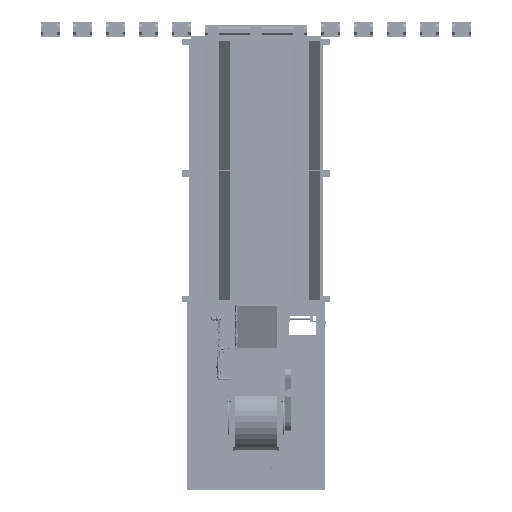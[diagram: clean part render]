
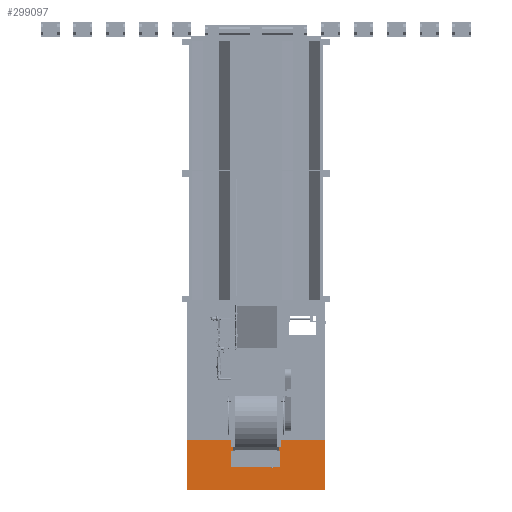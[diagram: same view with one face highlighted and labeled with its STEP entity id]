
A CAD part, front view. The second image highlights one B-rep face of the part: STEP entity #299097.
In plain terms, the highlighted planar face has unit normal (0, -1, 0) as drawn and (1, 0, 0) by its records, which use the part's own axes.
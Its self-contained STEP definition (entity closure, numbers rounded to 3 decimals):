
#59489=FACE_OUTER_BOUND('',#77470,.T.);
#77470=EDGE_LOOP('',(#270696,#270697,#270698,#270699));
#98950=LINE('',#727675,#121580);
#98986=LINE('',#727743,#121616);
#98998=LINE('',#727766,#121628);
#98999=LINE('',#727767,#121629);
#121580=VECTOR('',#397070,0.394);
#121616=VECTOR('',#397124,0.394);
#121628=VECTOR('',#397148,0.394);
#121629=VECTOR('',#397149,0.394);
#148806=VERTEX_POINT('',#727672);
#148807=VERTEX_POINT('',#727674);
#148830=VERTEX_POINT('',#727741);
#148835=VERTEX_POINT('',#727765);
#189822=EDGE_CURVE('',#148806,#148807,#98950,.T.);
#189858=EDGE_CURVE('',#148806,#148830,#98986,.T.);
#189870=EDGE_CURVE('',#148830,#148835,#98998,.T.);
#189871=EDGE_CURVE('',#148835,#148807,#98999,.T.);
#270696=ORIENTED_EDGE('',*,*,#189858,.T.);
#270697=ORIENTED_EDGE('',*,*,#189870,.T.);
#270698=ORIENTED_EDGE('',*,*,#189871,.T.);
#270699=ORIENTED_EDGE('',*,*,#189822,.F.);
#283141=PLANE('',#326147);
#299097=ADVANCED_FACE('',(#59489),#283141,.T.);
#326147=AXIS2_PLACEMENT_3D('',#727764,#397146,#397147);
#397070=DIRECTION('',(0.,0.,1.));
#397124=DIRECTION('',(0.,1.,0.));
#397146=DIRECTION('center_axis',(1.,0.,0.));
#397147=DIRECTION('ref_axis',(0.,0.,-1.));
#397148=DIRECTION('',(0.,0.,1.));
#397149=DIRECTION('',(0.,-1.,0.));
#727672=CARTESIAN_POINT('',(-0.125,-30.,101.063));
#727674=CARTESIAN_POINT('',(-0.125,-30.,137.75));
#727675=CARTESIAN_POINT('',(-0.125,-30.,0.));
#727741=CARTESIAN_POINT('',(-0.125,70.5,101.063));
#727743=CARTESIAN_POINT('',(-0.125,20.25,101.063));
#727764=CARTESIAN_POINT('Origin',(-0.125,70.5,0.));
#727765=CARTESIAN_POINT('',(-0.125,70.5,137.75));
#727766=CARTESIAN_POINT('',(-0.125,70.5,0.));
#727767=CARTESIAN_POINT('',(-0.125,-30.,137.75));
